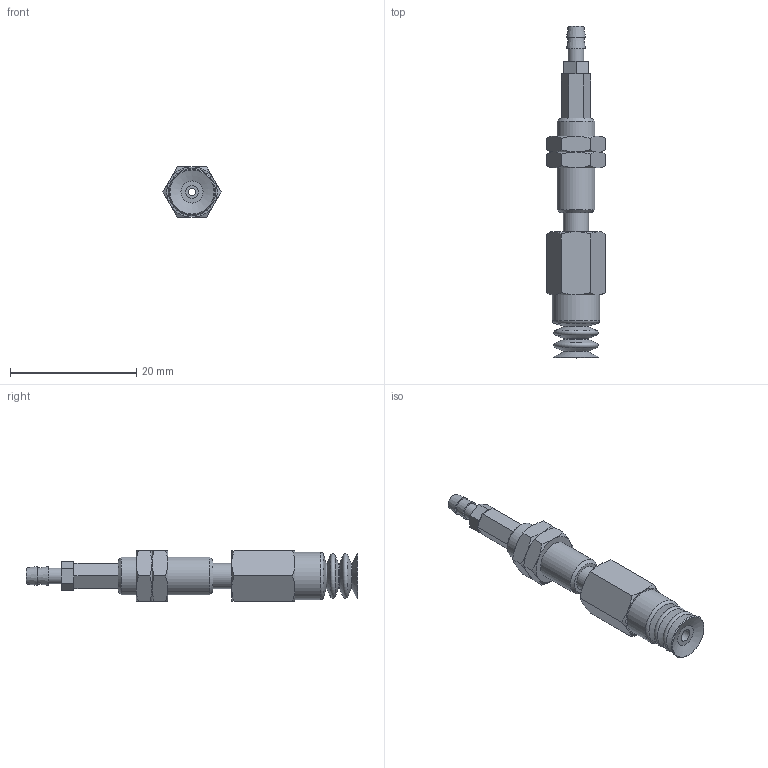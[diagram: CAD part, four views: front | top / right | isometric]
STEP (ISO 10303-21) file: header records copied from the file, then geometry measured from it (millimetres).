
FILE_DESCRIPTION(('STEP AP203'),'1');
FILE_NAME('-T.stp','2025-08-27T01:58:42',(' '),(' '),'Spatial InterOp 3D',' ',' ');
FILE_SCHEMA(('CONFIG_CONTROL_DESIGN'));
Length unit declared in the file: millimetre
Products named in the file (7): BNABPCTS-7-3-※-T; ADAPTER; NAPCTS-7-3-MBODY; Nut napc_s-7-3; NAPCTS-7-3-FBODY; BPCG-7-※; T (2)
Assembly tree (7 placements, depth 2):
  BNABPCTS-7-3-※-T
    ADAPTER
    NAPCTS-7-3-MBODY
    Nut napc_s-7-3  x2
    NAPCTS-7-3-FBODY
    BPCG-7-※
    T (2)
Bounding box: 9.24 x 52.6 x 8 mm (x, y, z)
Volume: 1592.8 mm3; surface area: 2468.6 mm2
Topology: 7 solids, 7 shells, 142 faces, 288 edges, 169 vertices
Faces by surface type: plane 59, cone 55, cylinder 17, torus 11
Full cylindrical faces by diameter (mm): 1.2 x3, 2 x1, 2.459 x1, 2.5 x1, 3 x1, 4 x4, 5.188 x2, 6 x3, 7.5 x1
Entity records: 3360 total; most frequent: CARTESIAN_POINT 725, DIRECTION 490, ORIENTED_EDGE 388, AXIS2_PLACEMENT_3D 218, EDGE_CURVE 194, EDGE_LOOP 183, FACE_OUTER_BOUND 146, VERTEX_POINT 139
